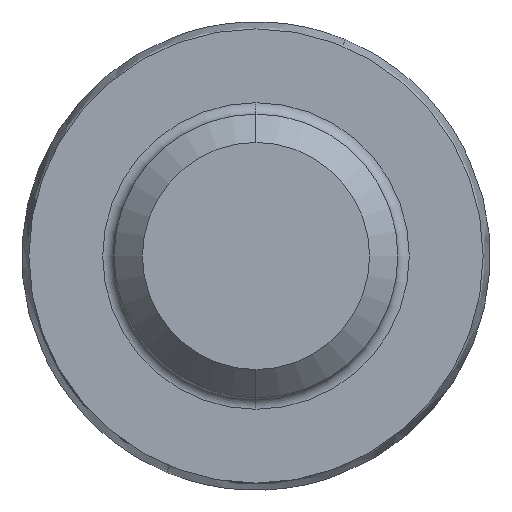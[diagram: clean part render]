
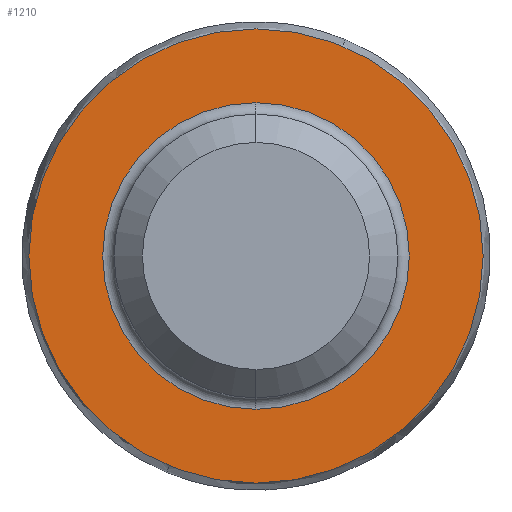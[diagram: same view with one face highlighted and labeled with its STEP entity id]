
A CAD part, left-side view. The second image highlights one B-rep face of the part: STEP entity #1210.
In plain terms, the highlighted planar face has unit normal (-1, 0, 0).
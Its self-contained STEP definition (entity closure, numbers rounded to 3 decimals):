
#17 = VERTEX_POINT ( 'NONE', #1091 ) ;
#98 = DIRECTION ( 'NONE',  ( -1., 0., 0. ) ) ;
#130 = CARTESIAN_POINT ( 'NONE',  ( 0., 0., 0. ) ) ;
#146 = AXIS2_PLACEMENT_3D ( 'NONE', #697, #1202, #228 ) ;
#175 = EDGE_CURVE ( 'NONE', #1578, #248, #2181, .T. ) ;
#228 = DIRECTION ( 'NONE',  ( 0., 0., 1. ) ) ;
#248 = VERTEX_POINT ( 'NONE', #317 ) ;
#317 = CARTESIAN_POINT ( 'NONE',  ( 0., 0., 5.4 ) ) ;
#357 = DIRECTION ( 'NONE',  ( -1., 0., 0. ) ) ;
#468 = DIRECTION ( 'NONE',  ( 0., 0., 1. ) ) ;
#517 = DIRECTION ( 'NONE',  ( 0., 0., -1. ) ) ;
#534 = CIRCLE ( 'NONE', #1413, 8. ) ;
#548 = CARTESIAN_POINT ( 'NONE',  ( 0., 0., 0. ) ) ;
#697 = CARTESIAN_POINT ( 'NONE',  ( 0., 0., 0. ) ) ;
#716 = CIRCLE ( 'NONE', #146, 5.4 ) ;
#735 = EDGE_CURVE ( 'NONE', #248, #1578, #716, .T. ) ;
#876 = DIRECTION ( 'NONE',  ( 1., 0., 0. ) ) ;
#887 = AXIS2_PLACEMENT_3D ( 'NONE', #548, #357, #1940 ) ;
#1051 = ORIENTED_EDGE ( 'NONE', *, *, #735, .F. ) ;
#1091 = CARTESIAN_POINT ( 'NONE',  ( 0., 0., 8. ) ) ;
#1097 = EDGE_CURVE ( 'NONE', #17, #1570, #534, .T. ) ;
#1134 = CARTESIAN_POINT ( 'NONE',  ( 0., 0., -8. ) ) ;
#1165 = EDGE_CURVE ( 'NONE', #1570, #17, #1869, .T. ) ;
#1173 = AXIS2_PLACEMENT_3D ( 'NONE', #2096, #876, #517 ) ;
#1180 = AXIS2_PLACEMENT_3D ( 'NONE', #130, #1685, #468 ) ;
#1202 = DIRECTION ( 'NONE',  ( -1., 0., 0. ) ) ;
#1210 = ADVANCED_FACE ( 'NONE', ( #1585, #1225 ), #1755, .F. ) ;
#1225 = FACE_OUTER_BOUND ( 'NONE', #2239, .T. ) ;
#1340 = CARTESIAN_POINT ( 'NONE',  ( 0., 0., 0. ) ) ;
#1413 = AXIS2_PLACEMENT_3D ( 'NONE', #1340, #98, #1853 ) ;
#1428 = ORIENTED_EDGE ( 'NONE', *, *, #1165, .T. ) ;
#1570 = VERTEX_POINT ( 'NONE', #1134 ) ;
#1578 = VERTEX_POINT ( 'NONE', #2144 ) ;
#1585 = FACE_BOUND ( 'NONE', #1800, .T. ) ;
#1685 = DIRECTION ( 'NONE',  ( -1., 0., 0. ) ) ;
#1748 = ORIENTED_EDGE ( 'NONE', *, *, #1097, .T. ) ;
#1755 = PLANE ( 'NONE',  #1173 ) ;
#1793 = ORIENTED_EDGE ( 'NONE', *, *, #175, .F. ) ;
#1800 = EDGE_LOOP ( 'NONE', ( #1051, #1793 ) ) ;
#1853 = DIRECTION ( 'NONE',  ( 0., 0., 1. ) ) ;
#1869 = CIRCLE ( 'NONE', #887, 8. ) ;
#1940 = DIRECTION ( 'NONE',  ( 0., 0., 1. ) ) ;
#2096 = CARTESIAN_POINT ( 'NONE',  ( 0., 5.4, 0. ) ) ;
#2144 = CARTESIAN_POINT ( 'NONE',  ( 0., 0., -5.4 ) ) ;
#2181 = CIRCLE ( 'NONE', #1180, 5.4 ) ;
#2239 = EDGE_LOOP ( 'NONE', ( #1748, #1428 ) ) ;
